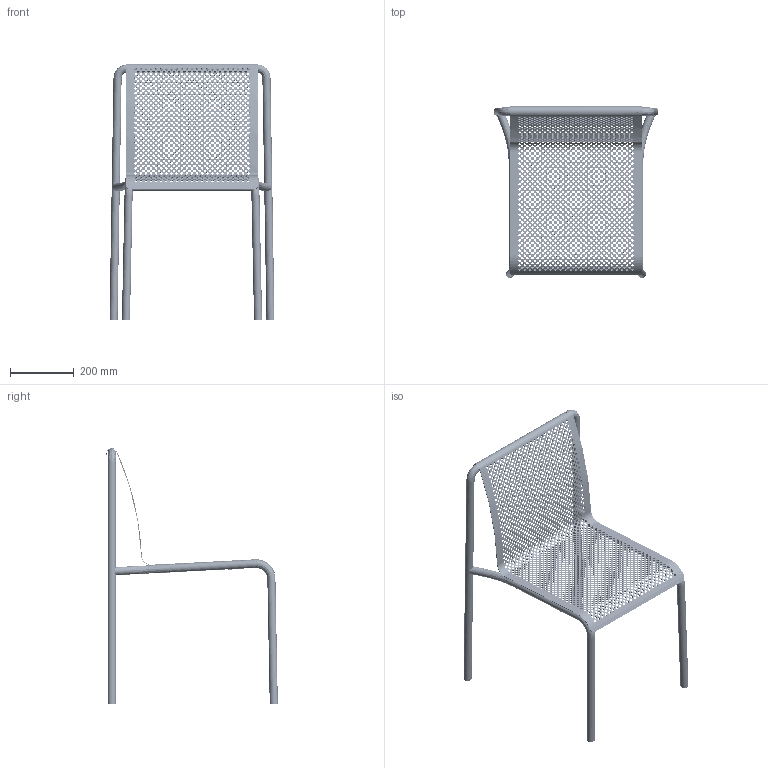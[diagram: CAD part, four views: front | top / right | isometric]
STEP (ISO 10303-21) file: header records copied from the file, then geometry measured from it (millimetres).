
FILE_DESCRIPTION(/* description */ (''),/* implementation_level */ '2;1');
FILE_NAME(/* name */ 'Dapple Chair_3D',/* time_stamp */ '2025-07-22T15:54:30+02:00',/* author */ (''),/* organization */ (''),/* preprocessor_version */ 'ST-DEVELOPER v16.5',/* originating_system */ 'Rhino 7.38',/* authorisation */ '');
FILE_SCHEMA (('CONFIG_CONTROL_DESIGN'));
Length unit declared in the file: millimetre
Products named in the file (1): Document
Bounding box: 516 x 536.63 x 800.45 mm (x, y, z)
Volume: 1115021.6 mm3; surface area: 1559353.1 mm2
Topology: 19 solids, 19 shells, 4838 faces, 14238 edges, 9340 vertices
Faces by surface type: bspline 2609, cylinder 2059, plane 170
Entity records: 417571 total; most frequent: CARTESIAN_POINT 323419, ORIENTED_EDGE 28460, EDGE_CURVE 14230, B_SPLINE_CURVE_WITH_KNOTS 9916, VERTEX_POINT 9340, EDGE_LOOP 9054, ADVANCED_FACE 4838, FACE_OUTER_BOUND 4838
